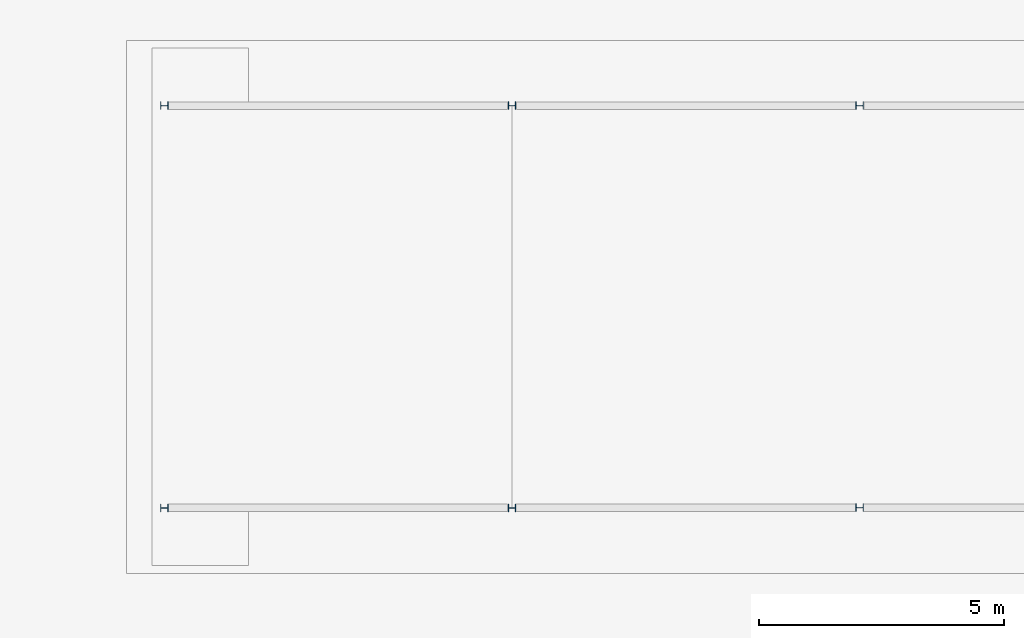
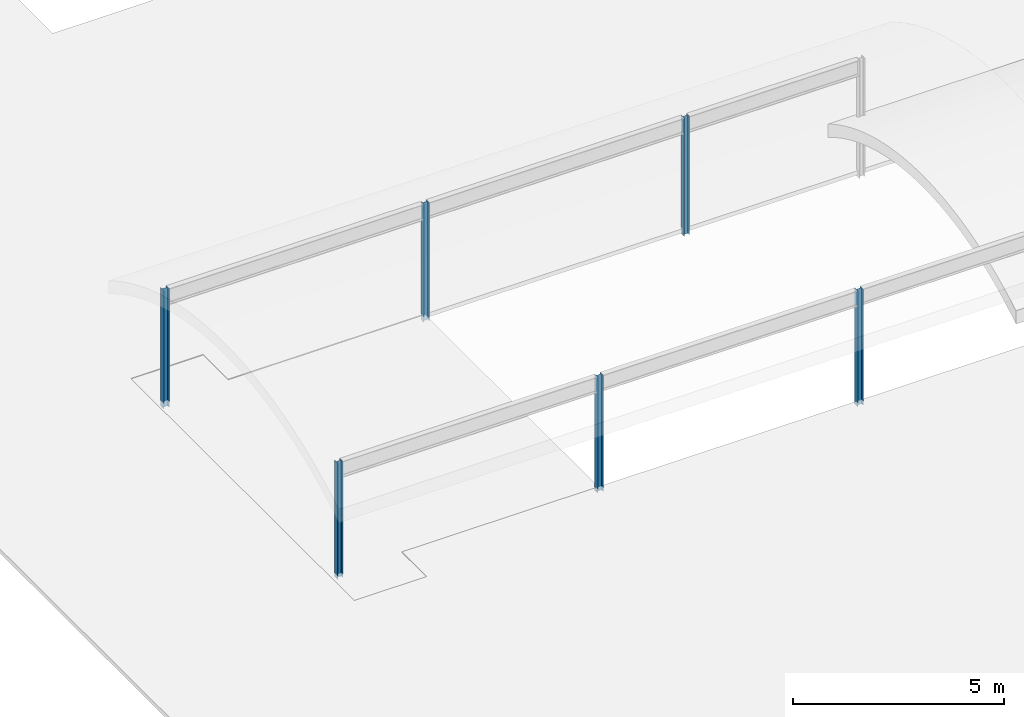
# One storey, part 1 of 5: 6 columns.
"""IFC2X3 building model written with IfcOpenShell, lengths in metres."""

from ifc_helpers import new_model, entity, si_unit, converted_unit, frame, frame_2d, origin, place, context, project, spatial, polyline, circle_curve, parameter, trimmed, segment, composite_curve, outline, extrude, source, transform, mapped, material, type_object, type_shapes, element, save


model = new_model("IFC2X3")

# Units and contexts
model_context = context("Model", 3, precision=1e-09, world=origin())
plan_context = context("Plan", 3, precision=1e-09, world=origin())
ifc_project = project(units=[si_unit("LENGTHUNIT", "METRE"), si_unit("AREAUNIT", "SQUARE_METRE"), si_unit("VOLUMEUNIT", "CUBIC_METRE"), converted_unit("PLANEANGLEUNIT", "DEGREE", entity("IfcRatioMeasure", 0.01745329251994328), si_unit("PLANEANGLEUNIT", "RADIAN"), dimensions=[0, 0, 0, 0, 0, 0, 0]), si_unit("TIMEUNIT", "SECOND")], contexts=[model_context, plan_context])

# Site, building, storey
site_placement = place(None, origin())
site = spatial("IfcSite", under=ifc_project, at=site_placement, Name="Default", CompositionType="ELEMENT")
building_placement = place(site_placement, origin())
building = spatial("IfcBuilding", under=site, at=building_placement, CompositionType="ELEMENT")
storey_placement = place(building_placement, frame((0.0, 0.0, 9.25000000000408)))
storey = spatial("IfcBuildingStorey", under=building, at=storey_placement, Name="Roof - Main", CompositionType="ELEMENT", Elevation=9.25000000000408)

# Columns
ifc_material = material(Name="Metal - Steel - 345 MPa")
column_type_1 = type_object("IfcColumnType", Name="W150X22.5", PredefinedType="COLUMN")
shared_shape_1 = source(origin(), model_context, "Body", "SweptSolid", [
    extrude(outline(composite_curve([segment(polyline([(-0.07599999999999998, -0.07599999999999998), (0.07599999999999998, -0.07599999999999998)]), True, "CONTINUOUS"), segment(polyline([(0.07599999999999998, -0.07599999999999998), (0.07599999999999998, -0.06939999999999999)]), True, "CONTINUOUS"), segment(polyline([(0.07599999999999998, -0.06939999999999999), (0.0143, -0.0694)]), True, "CONTINUOUS"), segment(trimmed(circle_curve(frame_2d((0.0143, -0.05799999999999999), x_axis=(-1.0, 0.0)), 0.0114), [parameter(4.071109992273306e-13)], [parameter(90.00000000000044)], True, "PARAMETER"), False, "CONTINUOUS"), segment(polyline([(0.002899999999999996, -0.05799999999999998), (0.002899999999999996, 0.05800000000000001)]), True, "CONTINUOUS"), segment(trimmed(circle_curve(frame_2d((0.0143, 0.058), x_axis=(-1.0, 0.0)), 0.0114), [parameter(270.0000000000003)], [parameter(4.071109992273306e-13)], True, "PARAMETER"), False, "CONTINUOUS"), segment(polyline([(0.01429999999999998, 0.06939999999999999), (0.07599999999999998, 0.06939999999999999)]), True, "CONTINUOUS"), segment(polyline([(0.07599999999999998, 0.06939999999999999), (0.07599999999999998, 0.07599999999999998)]), True, "CONTINUOUS"), segment(polyline([(0.07599999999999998, 0.07599999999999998), (-0.07599999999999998, 0.07599999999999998)]), True, "CONTINUOUS"), segment(polyline([(-0.07599999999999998, 0.07599999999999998), (-0.07599999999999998, 0.06939999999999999)]), True, "CONTINUOUS"), segment(polyline([(-0.07599999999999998, 0.06939999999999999), (-0.01429999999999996, 0.0694)]), True, "CONTINUOUS"), segment(trimmed(circle_curve(frame_2d((-0.0143, 0.058), x_axis=(-1.0, 0.0)), 0.0114), [parameter(180.0)], [parameter(270.0)], True, "PARAMETER"), False, "CONTINUOUS"), segment(polyline([(-0.002899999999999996, 0.05800000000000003), (-0.002899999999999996, -0.05799999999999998)]), True, "CONTINUOUS"), segment(trimmed(circle_curve(frame_2d((-0.0143, -0.05799999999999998), x_axis=(-1.0, 0.0)), 0.0114), [parameter(90.0000000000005)], [parameter(180.0000000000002)], True, "PARAMETER"), False, "CONTINUOUS"), segment(polyline([(-0.01430000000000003, -0.06939999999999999), (-0.07599999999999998, -0.06939999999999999)]), True, "CONTINUOUS"), segment(polyline([(-0.07599999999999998, -0.06939999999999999), (-0.07599999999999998, -0.07599999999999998)]), True, "CONTINUOUS")], self_intersect=False)), frame((0.0, 0.0, 9.186500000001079), z_axis=(0.0, 0.0, 1.0), x_axis=(-1.0, 0.0, 0.0)), (0.0, 0.0, 1.0), 3.4196),
])
type_shapes(column_type_1, [shared_shape_1])
for number, where, z_axis, x_axis in (
    (1, (-26.44000000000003, 35.80499999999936, -9.25000000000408), (0.0, 0.0, 1.0), (0.0, 1.0, 0.0)),
    (2, (-40.66000000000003, 35.80496379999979, -9.25000000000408), (0.0, 0.0, 1.0), (0.0, 1.0, 0.0)),
    (3, (-33.55001419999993, 35.80496379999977, -9.25000000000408), (0.0, 0.0, 1.0), (0.0, 1.0, 0.0)),
):
    element("IfcColumn", number, at=place(storey_placement, frame(where, z_axis=z_axis, x_axis=x_axis)), inside=storey, type_object=column_type_1, material=ifc_material, Name="M_W-Wide Flange-Column:W150X22.5:W150X22.5", ObjectType="W150X22.5", context=model_context, shape_type="MappedRepresentation", body=[
        mapped(shared_shape_1, transform((0.0, 0.0, 0.0), scale=1.0)),
    ])
column_type_2 = type_object("IfcColumnType", Name="W150X22.5", PredefinedType="COLUMN")
shared_shape_2 = source(origin(), model_context, "Body", "SweptSolid", [
    extrude(outline(composite_curve([segment(polyline([(-0.07599999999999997, -0.07599999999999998), (-0.06939999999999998, -0.07599999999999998)]), True, "CONTINUOUS"), segment(polyline([(-0.06939999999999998, -0.07599999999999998), (-0.06939999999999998, -0.01430000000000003)]), True, "CONTINUOUS"), segment(trimmed(circle_curve(frame_2d((-0.05799999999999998, -0.01430000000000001), x_axis=(0.0, -1.0)), 0.0114), [parameter(179.9999999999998)], [parameter(269.9999999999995)], True, "PARAMETER"), False, "CONTINUOUS"), segment(polyline([(-0.05799999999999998, -0.002899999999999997), (0.05800000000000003, -0.002899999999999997)]), True, "CONTINUOUS"), segment(trimmed(circle_curve(frame_2d((0.058, -0.01430000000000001), x_axis=(0.0, -1.0)), 0.0114), [parameter(89.99999999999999)], [parameter(180.0)], True, "PARAMETER"), False, "CONTINUOUS"), segment(polyline([(0.06940000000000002, -0.01429999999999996), (0.0694, -0.07599999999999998)]), True, "CONTINUOUS"), segment(polyline([(0.0694, -0.07599999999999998), (0.076, -0.07599999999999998)]), True, "CONTINUOUS"), segment(polyline([(0.076, -0.07599999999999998), (0.076, 0.07599999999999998)]), True, "CONTINUOUS"), segment(polyline([(0.076, 0.07599999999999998), (0.0694, 0.07599999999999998)]), True, "CONTINUOUS"), segment(polyline([(0.0694, 0.07599999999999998), (0.0694, 0.01429999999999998)]), True, "CONTINUOUS"), segment(trimmed(circle_curve(frame_2d((0.058, 0.0143), x_axis=(0.0, -1.0)), 0.0114), [parameter(359.9999999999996)], [parameter(89.99999999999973)], True, "PARAMETER"), False, "CONTINUOUS"), segment(polyline([(0.058, 0.002899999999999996), (-0.05799999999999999, 0.002899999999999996)]), True, "CONTINUOUS"), segment(trimmed(circle_curve(frame_2d((-0.05799999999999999, 0.0143), x_axis=(0.0, -1.0)), 0.0114), [parameter(269.9999999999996)], [parameter(359.9999999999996)], True, "PARAMETER"), False, "CONTINUOUS"), segment(polyline([(-0.06939999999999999, 0.0143), (-0.06939999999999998, 0.07599999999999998)]), True, "CONTINUOUS"), segment(polyline([(-0.06939999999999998, 0.07599999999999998), (-0.07599999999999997, 0.07599999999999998)]), True, "CONTINUOUS"), segment(polyline([(-0.07599999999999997, 0.07599999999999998), (-0.07599999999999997, -0.07599999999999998)]), True, "CONTINUOUS")], self_intersect=False)), frame((0.0, 0.0, 9.250000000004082), z_axis=(0.0, 0.0, 1.0), x_axis=(0.0, 1.0, 0.0)), (0.0, 0.0, 1.0), 3.3561),
])
type_shapes(column_type_2, [shared_shape_2])
for number, where, z_axis, x_axis in (
    (4, (-40.66000000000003, 27.57999999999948, -9.25000000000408), (0.0, 0.0, 1.0), (0.0, -1.0, 0.0)),
    (5, (-33.55001419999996, 27.57999999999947, -9.25000000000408), (0.0, 0.0, 1.0), (0.0, -1.0, 0.0)),
    (6, (-26.44000000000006, 27.58500000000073, -9.25000000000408), (0.0, 0.0, 1.0), (0.0, -1.0, 0.0)),
):
    element("IfcColumn", number, at=place(storey_placement, frame(where, z_axis=z_axis, x_axis=x_axis)), inside=storey, type_object=column_type_2, material=ifc_material, Name="M_W-Wide Flange-Column:W150X22.5:W150X22.5", ObjectType="W150X22.5", context=model_context, shape_type="MappedRepresentation", body=[
        mapped(shared_shape_2, transform((0.0, 0.0, 0.0), scale=1.0)),
    ])

save(model, "model.ifc")
